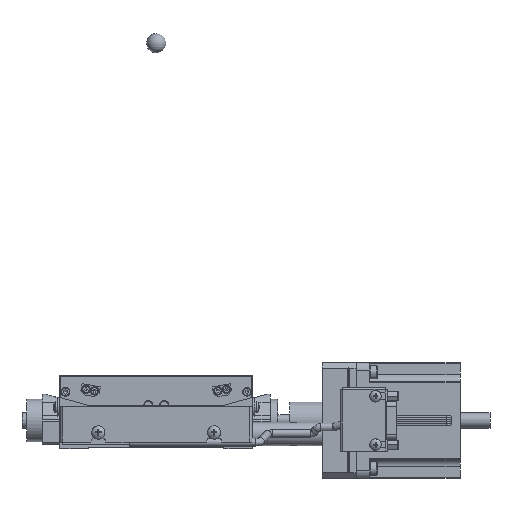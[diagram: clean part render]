
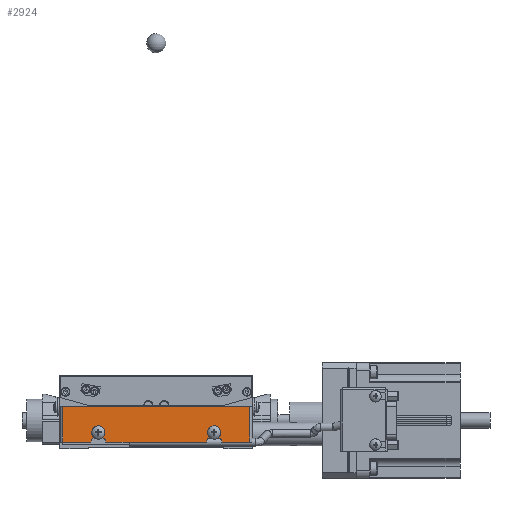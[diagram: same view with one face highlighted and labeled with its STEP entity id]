
A CAD part, front view. The second image highlights one B-rep face of the part: STEP entity #2924.
In plain terms, the highlighted planar face has unit normal (0, -1, 0).
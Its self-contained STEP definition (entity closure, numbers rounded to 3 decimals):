
#2924=ADVANCED_FACE('',(#31229),#31228,.T.);
#31228=PLANE('',#51336);
#31229=FACE_OUTER_BOUND('',#51337,.T.);
#51333=CARTESIAN_POINT('',(-58.2,-67.,1.65));
#51334=DIRECTION('',(0.,-1.,0.));
#51335=DIRECTION('',(1.,0.,0.));
#51336=AXIS2_PLACEMENT_3D('',#51333,#51334,#51335);
#51337=EDGE_LOOP('',(#67541,#67542,#67543,#67544,#67545,#67546,#67547,#67548,#67549,#67550,#67551,#67552,#67553,#67554));
#67541=ORIENTED_EDGE('',*,*,#72925,.F.);
#67542=ORIENTED_EDGE('',*,*,#72926,.F.);
#67543=ORIENTED_EDGE('',*,*,#72532,.T.);
#67544=ORIENTED_EDGE('',*,*,#72575,.T.);
#67545=ORIENTED_EDGE('',*,*,#72536,.T.);
#67546=ORIENTED_EDGE('',*,*,#72559,.F.);
#67547=ORIENTED_EDGE('',*,*,#72538,.T.);
#67548=ORIENTED_EDGE('',*,*,#72572,.T.);
#67549=ORIENTED_EDGE('',*,*,#72505,.T.);
#67550=ORIENTED_EDGE('',*,*,#72874,.F.);
#67551=ORIENTED_EDGE('',*,*,#72875,.F.);
#67552=ORIENTED_EDGE('',*,*,#72510,.T.);
#67553=ORIENTED_EDGE('',*,*,#72577,.T.);
#67554=ORIENTED_EDGE('',*,*,#72526,.T.);
#72505=EDGE_CURVE('',#103128,#103121,#103129,.T.);
#72510=EDGE_CURVE('',#103141,#103155,#103162,.T.);
#72526=EDGE_CURVE('',#103271,#103264,#103272,.T.);
#72532=EDGE_CURVE('',#103284,#103305,#103312,.T.);
#72536=EDGE_CURVE('',#103319,#103333,#103340,.T.);
#72538=EDGE_CURVE('',#103354,#103346,#103355,.T.);
#72559=EDGE_CURVE('',#103354,#103333,#103497,.T.);
#72572=EDGE_CURVE('',#103346,#103128,#103580,.T.);
#72575=EDGE_CURVE('',#103305,#103319,#103598,.T.);
#72577=EDGE_CURVE('',#103155,#103271,#103610,.T.);
#72874=EDGE_CURVE('',#105575,#103121,#105582,.T.);
#72875=EDGE_CURVE('',#103141,#105575,#105588,.T.);
#72925=EDGE_CURVE('',#105912,#103264,#105919,.T.);
#72926=EDGE_CURVE('',#103284,#105912,#105925,.T.);
#103121=VERTEX_POINT('',#144850);
#103128=VERTEX_POINT('',#144855);
#103129=CIRCLE('',#144859,4.);
#103141=VERTEX_POINT('',#144863);
#103155=VERTEX_POINT('',#144873);
#103162=CIRCLE('',#144880,4.);
#103264=VERTEX_POINT('',#144941);
#103271=VERTEX_POINT('',#144946);
#103272=CIRCLE('',#144950,4.);
#103284=VERTEX_POINT('',#144954);
#103305=VERTEX_POINT('',#144969);
#103312=CIRCLE('',#144976,4.);
#103319=VERTEX_POINT('',#144978);
#103333=VERTEX_POINT('',#144987);
#103340=LINE('',#144992,#144993);
#103346=VERTEX_POINT('',#144995);
#103354=VERTEX_POINT('',#145001);
#103355=LINE('',#145002,#145003);
#103497=LINE('',#145082,#145083);
#103580=LINE('',#145126,#145127);
#103598=LINE('',#145135,#145136);
#103610=LINE('',#145141,#145142);
#105575=VERTEX_POINT('',#146391);
#105582=CIRCLE('',#146397,3.45);
#105588=CIRCLE('',#146401,3.45);
#105912=VERTEX_POINT('',#146598);
#105919=CIRCLE('',#146604,3.45);
#105925=CIRCLE('',#146608,3.45);
#144850=CARTESIAN_POINT('',(-32.358,-67.,5.981));
#144855=CARTESIAN_POINT('',(-33.929,-67.,3.5));
#144856=CARTESIAN_POINT('',(-30.,-67.,2.75));
#144857=DIRECTION('',(0.,1.,0.));
#144858=DIRECTION('',(1.,0.,0.));
#144859=AXIS2_PLACEMENT_3D('',#144856,#144857,#144858);
#144863=CARTESIAN_POINT('',(-27.642,-67.,5.981));
#144873=CARTESIAN_POINT('',(-26.071,-67.,3.5));
#144877=CARTESIAN_POINT('',(-30.,-67.,2.75));
#144878=DIRECTION('',(0.,1.,0.));
#144879=DIRECTION('',(1.,0.,0.));
#144880=AXIS2_PLACEMENT_3D('',#144877,#144878,#144879);
#144941=CARTESIAN_POINT('',(27.642,-67.,5.981));
#144946=CARTESIAN_POINT('',(26.071,-67.,3.5));
#144947=CARTESIAN_POINT('',(30.,-67.,2.75));
#144948=DIRECTION('',(0.,1.,0.));
#144949=DIRECTION('',(1.,0.,0.));
#144950=AXIS2_PLACEMENT_3D('',#144947,#144948,#144949);
#144954=CARTESIAN_POINT('',(32.358,-67.,5.981));
#144969=CARTESIAN_POINT('',(33.929,-67.,3.5));
#144973=CARTESIAN_POINT('',(30.,-67.,2.75));
#144974=DIRECTION('',(0.,1.,0.));
#144975=DIRECTION('',(1.,0.,0.));
#144976=AXIS2_PLACEMENT_3D('',#144973,#144974,#144975);
#144978=CARTESIAN_POINT('',(48.5,-67.,3.5));
#144987=CARTESIAN_POINT('',(48.5,-67.,22.));
#144992=CARTESIAN_POINT('',(48.5,-67.,3.5));
#144993=VECTOR('',#144994,18.5);
#144994=DIRECTION('',(0.,0.,1.));
#144995=CARTESIAN_POINT('',(-48.5,-67.,3.5));
#145001=CARTESIAN_POINT('',(-48.5,-67.,22.));
#145002=CARTESIAN_POINT('',(-48.5,-67.,22.));
#145003=VECTOR('',#145004,18.5);
#145004=DIRECTION('',(0.,0.,-1.));
#145082=CARTESIAN_POINT('',(-48.5,-67.,22.));
#145083=VECTOR('',#145084,97.);
#145084=DIRECTION('',(1.,0.,0.));
#145126=CARTESIAN_POINT('',(-48.5,-67.,3.5));
#145127=VECTOR('',#145128,14.571);
#145128=DIRECTION('',(1.,0.,0.));
#145135=CARTESIAN_POINT('',(33.929,-67.,3.5));
#145136=VECTOR('',#145137,14.571);
#145137=DIRECTION('',(1.,0.,0.));
#145141=CARTESIAN_POINT('',(-26.071,-67.,3.5));
#145142=VECTOR('',#145143,52.142);
#145143=DIRECTION('',(1.,0.,0.));
#146391=CARTESIAN_POINT('',(-26.55,-67.,8.5));
#146394=CARTESIAN_POINT('',(-30.,-67.,8.5));
#146395=DIRECTION('',(0.,-1.,0.));
#146396=DIRECTION('',(0.683,0.,-0.73));
#146397=AXIS2_PLACEMENT_3D('',#146394,#146395,#146396);
#146398=CARTESIAN_POINT('',(-30.,-67.,8.5));
#146399=DIRECTION('',(0.,-1.,0.));
#146400=DIRECTION('',(0.683,0.,-0.73));
#146401=AXIS2_PLACEMENT_3D('',#146398,#146399,#146400);
#146598=CARTESIAN_POINT('',(33.45,-67.,8.5));
#146601=CARTESIAN_POINT('',(30.,-67.,8.5));
#146602=DIRECTION('',(0.,-1.,0.));
#146603=DIRECTION('',(0.683,0.,-0.73));
#146604=AXIS2_PLACEMENT_3D('',#146601,#146602,#146603);
#146605=CARTESIAN_POINT('',(30.,-67.,8.5));
#146606=DIRECTION('',(0.,-1.,0.));
#146607=DIRECTION('',(0.683,0.,-0.73));
#146608=AXIS2_PLACEMENT_3D('',#146605,#146606,#146607);
